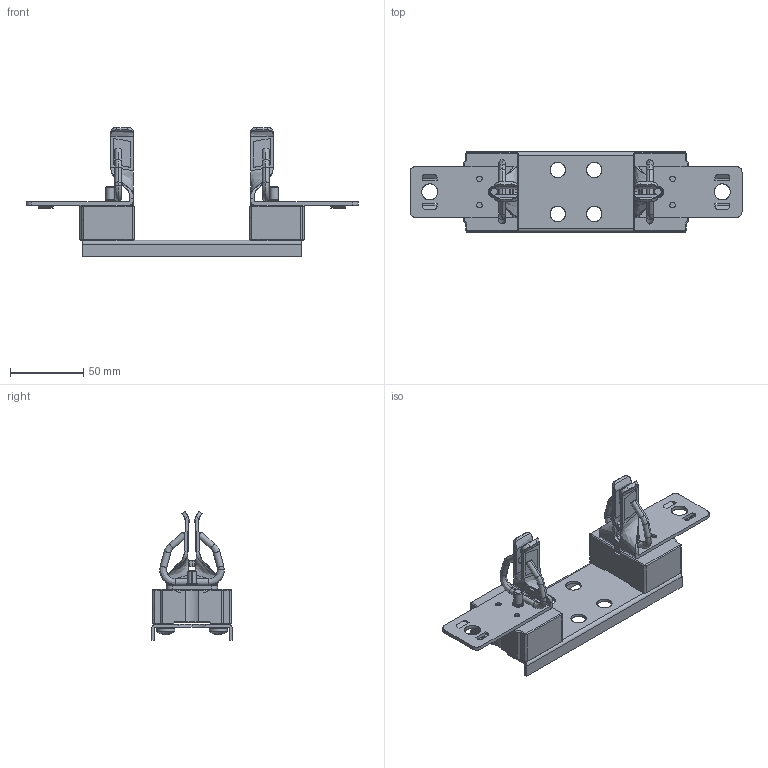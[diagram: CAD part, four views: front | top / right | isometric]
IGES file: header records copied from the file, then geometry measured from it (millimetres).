
Start section: SolidWorks IGES file using analytic representation for surfaces
Global section: file name: U:\14_RD\05_Technical_office\04_Office\Hrdinova\3D modely - IGES\Varius - Ostatní\SPF2.IGS; native system: SolidWorks 2011; preprocessor: SolidWorks 2011; author: adhrja3; date: 170620.144006; units: millimetre
Bounding box: 227 x 55 x 88.2 mm (x, y, z)
Surface area: 66429.1 mm2 (no closed solid volume)
Topology: 0 solids, 0 shells, 744 faces, 9102 edges, 9078 vertices
Faces by surface type: bspline 452, revolution 292
